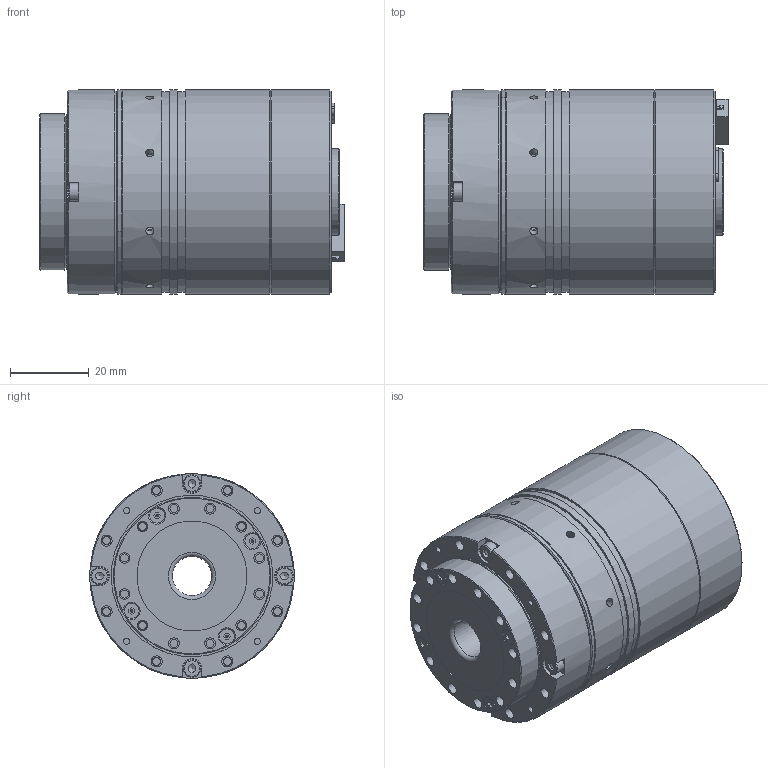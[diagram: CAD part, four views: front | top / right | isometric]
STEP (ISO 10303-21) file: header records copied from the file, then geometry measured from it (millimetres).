
FILE_DESCRIPTION( ('This file contains a STEP AP42 implementation' ,'as created by ZW3D STEP Interface translator.') ,'2;1' );
FILE_NAME( 'HJ2-52H101D24-BK-EC1.stp' ,'2512 5.141057', (''), ('ZWCAD Software Co.'), 'Version 1.0', 'ZW3D to STEP translator', '' );
FILE_SCHEMA(('AUTOMOTIVE_DESIGN { 1 0 10303 214 1 1 1 1 }'));
Length unit declared in the file: millimetre
Products named in the file (1): 0
Bounding box: 77.4 x 52 x 52 mm (x, y, z)
Volume: 142317.9 mm3; surface area: 27758.3 mm2
Topology: 1 solids, 51 shells, 3788 faces, 10095 edges, 6592 vertices
Faces by surface type: plane 3044, cylinder 464, cone 187, torus 65, bspline 20, sphere 8
Full cylindrical faces by diameter (mm): 1.6 x20, 1.74 x4, 2.05 x48, 2.2 x8, 2.5 x8, 2.7 x8, 2.8 x20, 3 x2, 3.8 x8, 4.5 x4, 10 x1, 12 x1, 13 x1, 14 x1, 22 x1, 28 x1, 31.2 x1, 40 x1, 41.1 x2, 44 x1, 50 x3, 51 x2, 52 x5
Entity records: 120278 total; most frequent: CARTESIAN_POINT 21977, ORIENTED_EDGE 20122, DIRECTION 18462, EDGE_CURVE 10061, VECTOR 8476, LINE 8476, VERTEX_POINT 6592, AXIS2_PLACEMENT_3D 4993
